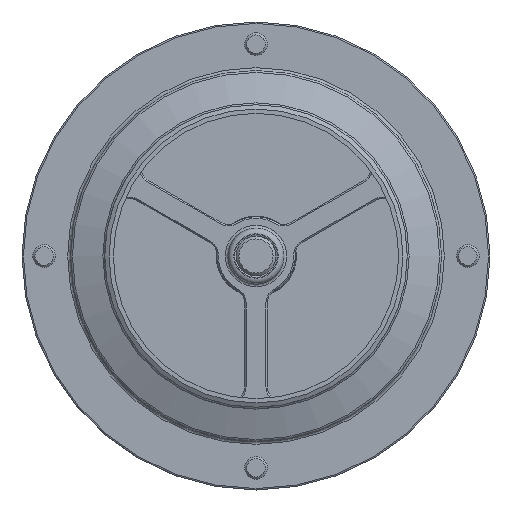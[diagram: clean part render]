
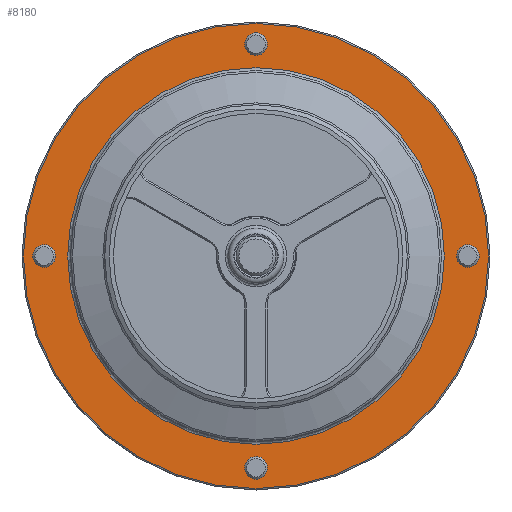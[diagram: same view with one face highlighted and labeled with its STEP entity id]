
A CAD part, left-side view. The second image highlights one B-rep face of the part: STEP entity #8180.
In plain terms, the highlighted planar face has unit normal (-1, 0, 0).
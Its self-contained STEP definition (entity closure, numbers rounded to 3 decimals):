
#4562=CARTESIAN_POINT('',(-28.479,0.,-78.25));
#4563=VERTEX_POINT('',#4562);
#4564=CARTESIAN_POINT('',(-28.479,0.,-74.25));
#4565=DIRECTION('',(1.0,0.0,0.0));
#4566=DIRECTION('',(0.0,0.0,1.0));
#4567=AXIS2_PLACEMENT_3D('',#4564,#4565,#4566);
#4568=CIRCLE('',#4567,4.);
#4569=EDGE_CURVE('',#4563,#4563,#4568,.T.);
#4926=CARTESIAN_POINT('',(-28.479,-78.25,0.));
#4927=VERTEX_POINT('',#4926);
#4928=CARTESIAN_POINT('',(-28.479,-74.25,0.));
#4929=DIRECTION('',(1.0,0.0,0.0));
#4930=DIRECTION('',(0.0,1.0,0.0));
#4931=AXIS2_PLACEMENT_3D('',#4928,#4929,#4930);
#4932=CIRCLE('',#4931,4.);
#4933=EDGE_CURVE('',#4927,#4927,#4932,.T.);
#5290=CARTESIAN_POINT('',(-28.479,0.,78.25));
#5291=VERTEX_POINT('',#5290);
#5292=CARTESIAN_POINT('',(-28.479,0.,74.25));
#5293=DIRECTION('',(1.0,0.0,0.0));
#5294=DIRECTION('',(0.0,0.0,-1.0));
#5295=AXIS2_PLACEMENT_3D('',#5292,#5293,#5294);
#5296=CIRCLE('',#5295,4.);
#5297=EDGE_CURVE('',#5291,#5291,#5296,.T.);
#8129=CARTESIAN_POINT('',(-28.479,81.5,0.));
#8130=VERTEX_POINT('',#8129);
#8131=CARTESIAN_POINT('',(-28.479,0.,0.));
#8132=DIRECTION('',(1.0,0.0,0.0));
#8133=DIRECTION('',(0.0,-1.0,0.0));
#8134=AXIS2_PLACEMENT_3D('',#8131,#8132,#8133);
#8135=CIRCLE('',#8134,81.5);
#8136=EDGE_CURVE('',#8130,#8130,#8135,.T.);
#8141=CARTESIAN_POINT('',(-28.479,74.,0.));
#8142=DIRECTION('',(-1.0,0.0,0.0));
#8143=DIRECTION('',(0.0,0.0,1.0));
#8144=AXIS2_PLACEMENT_3D('',#8141,#8142,#8143);
#8145=PLANE('',#8144);
#8146=ORIENTED_EDGE('',*,*,#8136,.F.);
#8147=EDGE_LOOP('',(#8146));
#8148=FACE_OUTER_BOUND('',#8147,.T.);
#8149=ORIENTED_EDGE('',*,*,#4569,.T.);
#8150=EDGE_LOOP('',(#8149));
#8151=FACE_BOUND('',#8150,.T.);
#8152=ORIENTED_EDGE('',*,*,#4933,.T.);
#8153=EDGE_LOOP('',(#8152));
#8154=FACE_BOUND('',#8153,.T.);
#8155=ORIENTED_EDGE('',*,*,#5297,.T.);
#8156=EDGE_LOOP('',(#8155));
#8157=FACE_BOUND('',#8156,.T.);
#8158=CARTESIAN_POINT('',(-28.479,78.25,0.));
#8159=VERTEX_POINT('',#8158);
#8160=CARTESIAN_POINT('',(-28.479,74.25,0.));
#8161=DIRECTION('',(1.0,0.0,0.0));
#8162=DIRECTION('',(0.0,-1.0,0.0));
#8163=AXIS2_PLACEMENT_3D('',#8160,#8161,#8162);
#8164=CIRCLE('',#8163,4.);
#8165=EDGE_CURVE('',#8159,#8159,#8164,.T.);
#8166=ORIENTED_EDGE('',*,*,#8165,.T.);
#8167=EDGE_LOOP('',(#8166));
#8168=FACE_BOUND('',#8167,.T.);
#8169=CARTESIAN_POINT('',(-28.479,66.,0.));
#8170=VERTEX_POINT('',#8169);
#8171=CARTESIAN_POINT('',(-28.479,0.,0.));
#8172=DIRECTION('',(-1.0,0.0,0.0));
#8173=DIRECTION('',(0.0,1.0,0.0));
#8174=AXIS2_PLACEMENT_3D('',#8171,#8172,#8173);
#8175=CIRCLE('',#8174,66.0);
#8176=EDGE_CURVE('',#8170,#8170,#8175,.T.);
#8177=ORIENTED_EDGE('',*,*,#8176,.F.);
#8178=EDGE_LOOP('',(#8177));
#8179=FACE_BOUND('',#8178,.T.);
#8180=ADVANCED_FACE('',(#8148,#8151,#8154,#8157,#8168,#8179),#8145,.T.);
